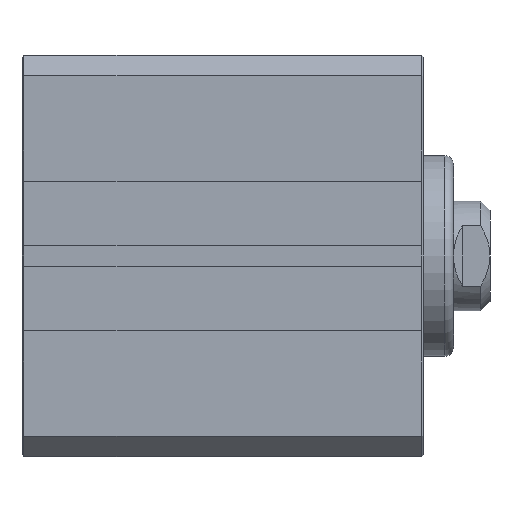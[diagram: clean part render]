
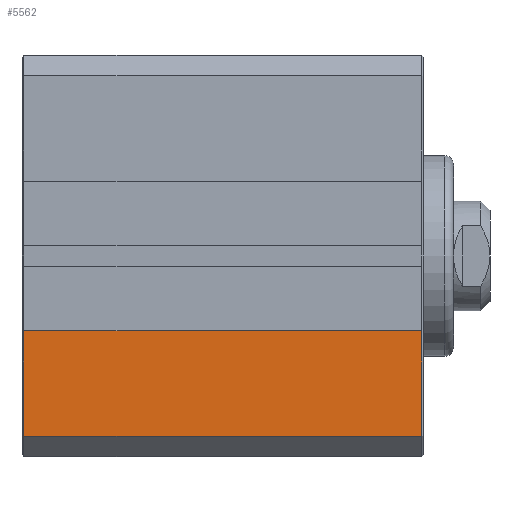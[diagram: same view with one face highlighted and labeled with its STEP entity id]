
A CAD part, left-side view. The second image highlights one B-rep face of the part: STEP entity #5562.
In plain terms, the highlighted planar face has unit normal (-1, 0, 0).
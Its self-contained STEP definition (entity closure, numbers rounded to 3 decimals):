
#107=LINE('',#7653,#489);
#109=LINE('',#7657,#491);
#110=LINE('',#7659,#492);
#111=LINE('',#7661,#493);
#489=VECTOR('',#6578,1000.);
#491=VECTOR('',#6582,1000.);
#492=VECTOR('',#6583,1000.);
#493=VECTOR('',#6584,1000.);
#1191=ORIENTED_EDGE('',*,*,#2065,.T.);
#1192=ORIENTED_EDGE('',*,*,#2067,.T.);
#1193=ORIENTED_EDGE('',*,*,#2068,.F.);
#1194=ORIENTED_EDGE('',*,*,#2069,.T.);
#2065=EDGE_CURVE('',#2532,#2531,#107,.T.);
#2067=EDGE_CURVE('',#2531,#2533,#109,.T.);
#2068=EDGE_CURVE('',#2534,#2533,#110,.T.);
#2069=EDGE_CURVE('',#2534,#2532,#111,.F.);
#2531=VERTEX_POINT('',#7652);
#2532=VERTEX_POINT('',#7654);
#2533=VERTEX_POINT('',#7658);
#2534=VERTEX_POINT('',#7660);
#2988=EDGE_LOOP('',(#1191,#1192,#1193,#1194));
#3318=FACE_BOUND('',#2988,.T.);
#3540=PLANE('',#5921);
#5562=ADVANCED_FACE('',(#3318),#3540,.F.);
#5921=AXIS2_PLACEMENT_3D('',#7656,#6580,#6581);
#6578=DIRECTION('',(0.,-1.,0.));
#6580=DIRECTION('',(1.,0.,0.));
#6581=DIRECTION('',(0.,1.,0.));
#6582=DIRECTION('',(0.,0.,1.));
#6583=DIRECTION('',(0.,-1.,0.));
#6584=DIRECTION('',(0.,0.,1.));
#7652=CARTESIAN_POINT('',(-22.,0.2,-19.782));
#7653=CARTESIAN_POINT('',(-22.,34.,-19.782));
#7654=CARTESIAN_POINT('',(-22.,43.8,-19.782));
#7656=CARTESIAN_POINT('',(-22.,34.,-19.782));
#7657=CARTESIAN_POINT('',(-22.,0.2,-8.2));
#7658=CARTESIAN_POINT('',(-22.,0.2,-8.2));
#7659=CARTESIAN_POINT('',(-22.,34.,-8.2));
#7660=CARTESIAN_POINT('',(-22.,43.8,-8.2));
#7661=CARTESIAN_POINT('',(-22.,43.8,9.));
